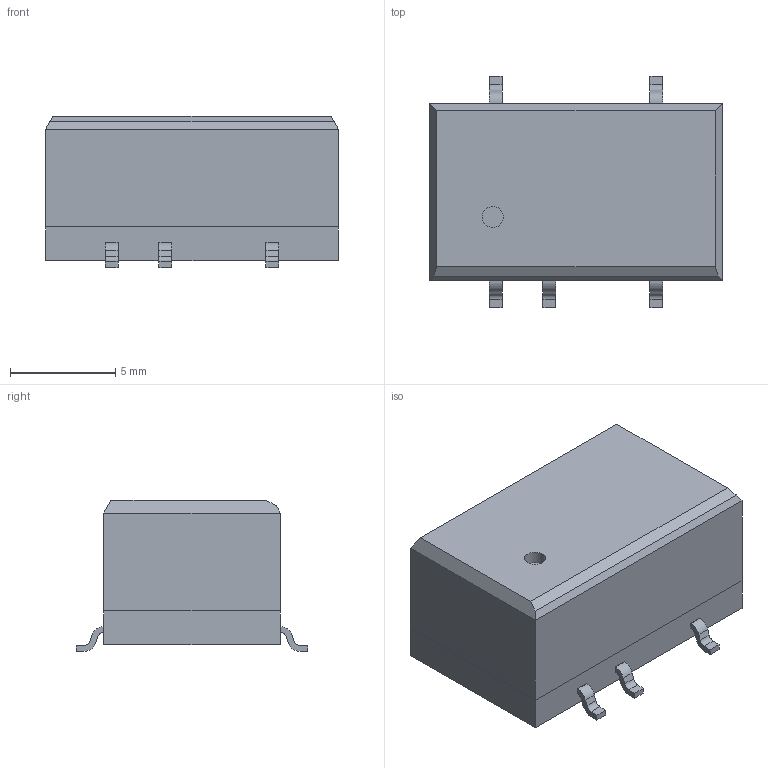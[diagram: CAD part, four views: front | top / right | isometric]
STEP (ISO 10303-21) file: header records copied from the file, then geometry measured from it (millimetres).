
FILE_DESCRIPTION(/* description */ (''),/* implementation_level */ '2;1');
FILE_NAME(/* name */ 'C:\Users\Calliope\Desktop\MS+水洗孔3D\MSLU100-S-W 3D(TES 1 Single).stp',/* time_stamp */ '2016-03-17T11:08:18+08:00',/* author */ ('Calliope'),/* organization */ (''),/* preprocessor_version */ 'ST-DEVELOPER v15.6',/* originating_system */ 'Autodesk Inventor 2015',/* authorisation */ '');
FILE_SCHEMA (('AUTOMOTIVE_DESIGN { 1 0 10303 214 3 1 1 }'));
Length unit declared in the file: millimetre
Products named in the file (3): MSLU100S-W Header; MSLU100S-W Cover; MSLU100S-W
Assembly tree (2 placements, depth 2):
  MSLU100S-W
    MSLU100S-W Header
    MSLU100S-W Cover
Bounding box: 13.9 x 11 x 7.18 mm (x, y, z)
Volume: 547.9 mm3; surface area: 1057.6 mm2
Topology: 2 solids, 2 shells, 125 faces, 314 edges, 208 vertices
Faces by surface type: plane 103, cylinder 22
Full cylindrical faces by diameter (mm): 1 x2
Entity records: 3759 total; most frequent: CARTESIAN_POINT 650, ORIENTED_EDGE 624, DIRECTION 616, EDGE_CURVE 312, LINE 268, VECTOR 268, VERTEX_POINT 208, AXIS2_PLACEMENT_3D 174
